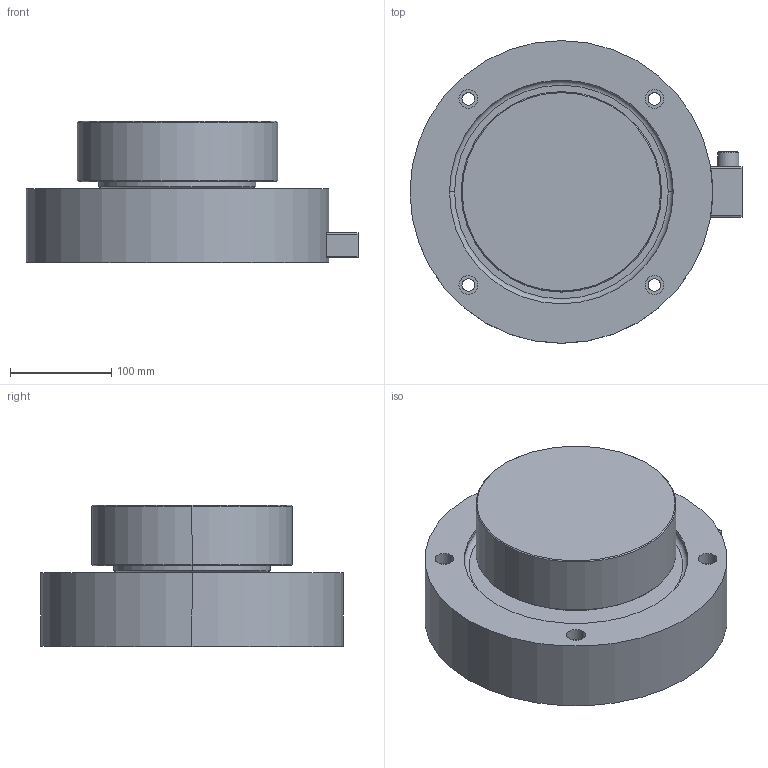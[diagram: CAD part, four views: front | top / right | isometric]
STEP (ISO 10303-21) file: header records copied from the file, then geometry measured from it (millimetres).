
FILE_DESCRIPTION((''),'1');
FILE_NAME('LKLF_300000_kg.step','2019-02-08T08:37:10',(''),(''),'','','');
FILE_SCHEMA(('AUTOMOTIVE_DESIGN { 1 0 10303 214 1 1 1 1 }'));
Products named in the file (5): LKLF 300000_kg; LKLF base 01; LKLF body 01; LKLF part 02; LKLF part 03
Assembly tree (4 placements, depth 2):
  LKLF 300000_kg
    LKLF base 01
    LKLF body 01
    LKLF part 02
    LKLF part 03
Bounding box: 327.9 x 299 x 140 mm (x, y, z)
Volume: 6823113.9 mm3; surface area: 346634.4 mm2
Topology: 4 solids, 4 shells, 83 faces, 186 edges, 118 vertices
Faces by surface type: cylinder 43, plane 21, cone 12, torus 6, sphere 1
Entity records: 3542 total; most frequent: CARTESIAN_POINT 788, DIRECTION 460, ORIENTED_EDGE 372, AXIS2_PLACEMENT_3D 198, EDGE_CURVE 186, VERTEX_POINT 118, CIRCLE 110, EDGE_LOOP 100
